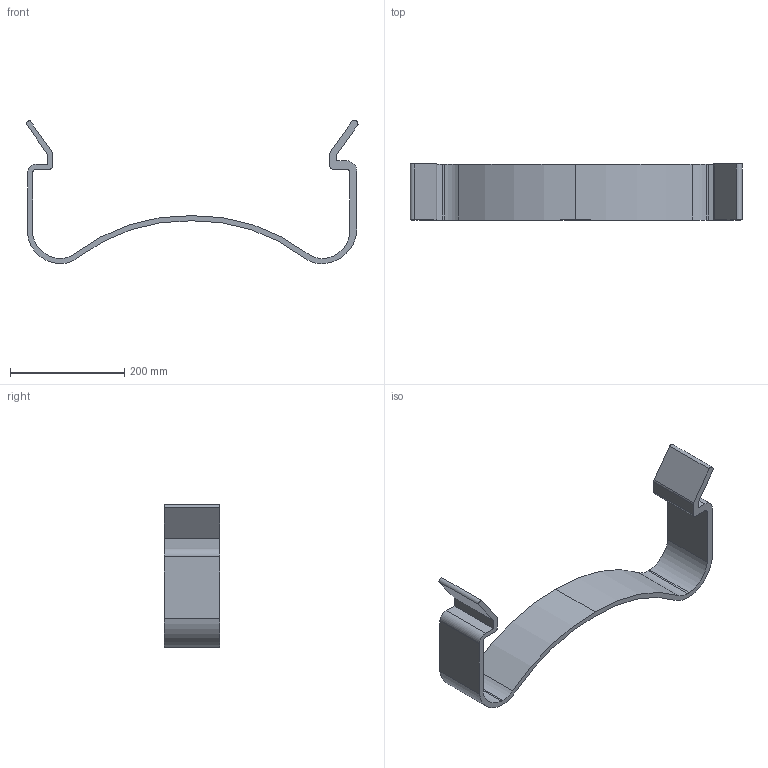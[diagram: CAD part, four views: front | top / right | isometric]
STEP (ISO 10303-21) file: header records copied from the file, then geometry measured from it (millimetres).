
FILE_DESCRIPTION (( 'STEP AP214' ), '1' );
FILE_NAME ('115000F00000G.STEP', '2023-01-18T21:27:28', ( '' ), ( '' ), 'SwSTEP 2.0', 'SolidWorks 2021', '' );
FILE_SCHEMA (( 'AUTOMOTIVE_DESIGN' ));
Length unit declared in the file: millimetre
Products named in the file (1): 115000F00000G
Bounding box: 581.89 x 98 x 251.32 mm (x, y, z)
Volume: 1085500.2 mm3; surface area: 244261.7 mm2
Topology: 1 solids, 1 shells, 45 faces, 129 edges, 86 vertices
Faces by surface type: cylinder 26, plane 19
Entity records: 2024 total; most frequent: DIRECTION 273, CARTESIAN_POINT 261, ORIENTED_EDGE 258, EDGE_CURVE 129, AXIS2_PLACEMENT_3D 98, VERTEX_POINT 86, VECTOR 77, LINE 77
